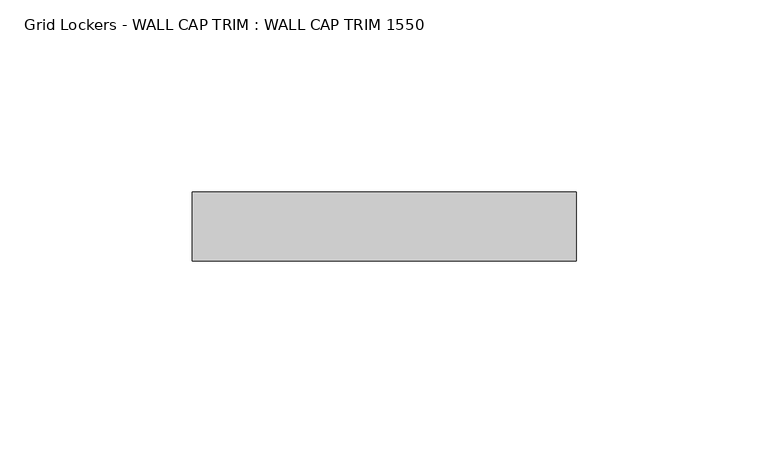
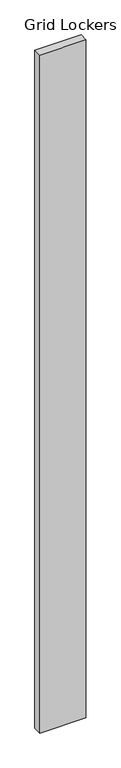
"""IFC4 building model written with IfcOpenShell, lengths in millimetres: furniture geometry, Grid Lockers - WALL CAP TRIM : WALL CAP TRIM 1550."""

from ifc_helpers import new_model, si_unit, origin, origin_with_axes, place, context, project, spatial, polyline, outline, extrude, source, transform, mapped, element, save


def grid_lockers_wall_cap_trim_wall_cap_trim_1550_f75bf27f(model_context):
    return source(origin(), model_context, "Body", "SweptSolid", [
        extrude(outline(polyline([(100.0, -18.0), (0.0, -18.0), (0.0, 0.0), (100.0, 0.0), (100.0, -18.0)])), origin_with_axes(), (0.0, 0.0, 1.0), 1550.0),
    ])


if __name__ == "__main__":
    model = new_model("IFC4")
    model_context = context("Model", 3, world=origin())
    ifc_project = project(units=[si_unit("LENGTHUNIT", "METRE", prefix="MILLI")], contexts=[model_context])
    site = spatial("IfcSite", under=ifc_project)
    building = spatial("IfcBuilding", under=site)
    placement = place(None, origin())
    grid_lockers_wall_cap_trim_wall_cap_trim_1550_shape = grid_lockers_wall_cap_trim_wall_cap_trim_1550_f75bf27f(model_context)
    element("IfcFurniture", 1, ObjectType="Grid Lockers - WALL CAP TRIM : WALL CAP TRIM 1550", at=placement, inside=building, context=model_context, shape_type="MappedRepresentation", body=[
        mapped(grid_lockers_wall_cap_trim_wall_cap_trim_1550_shape, transform((0.0, 0.0, 0.0), x_axis=(1.0, 0.0, 0.0), y_axis=(0.0, 1.0, 0.0), z_axis=(0.0, 0.0, 1.0))),
    ])
    save(model, "model.ifc")
